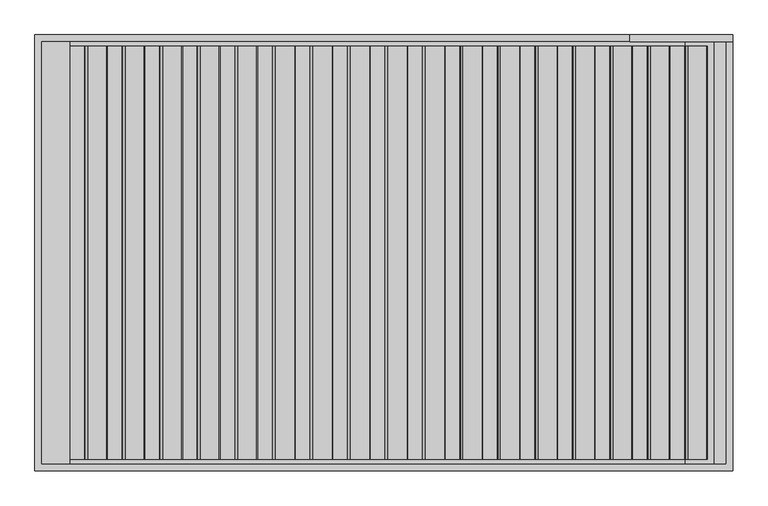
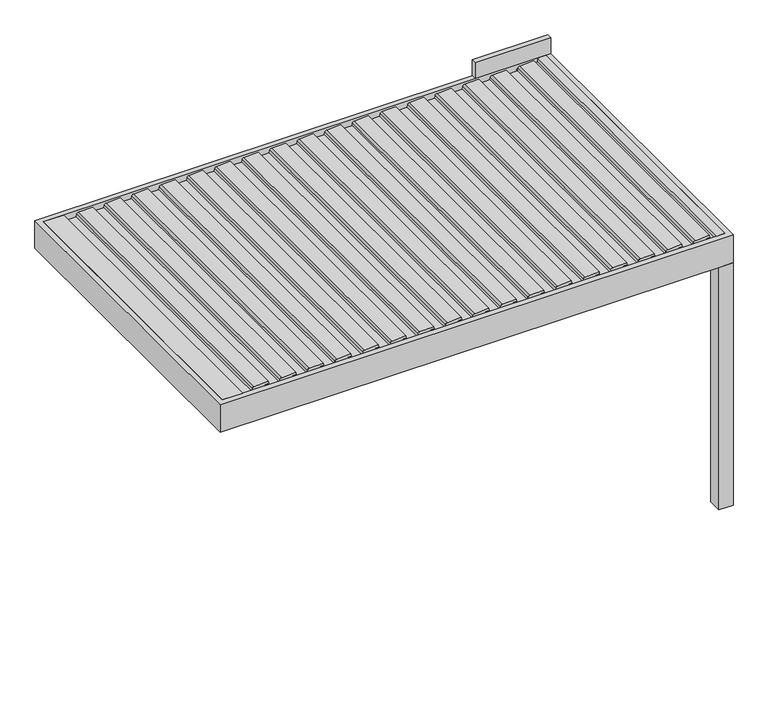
"""IFC4 building model written with IfcOpenShell, lengths in millimetres: proxy geometry, Renson_Algarve_Single : Algarve - Single."""

import ifcopenshell
import ifcopenshell.guid

model = None  # the IFC model being written
_history = None  # IfcOwnerHistory: only IFC2X3 demands one
_inside = {}  # id of a spatial element -> (the spatial element, [elements in it])
_under = {}  # id of a project, library or spatial element -> (it, [spatial elements below it])
_declared = {}  # id of a project -> (the project, [libraries it declares])
_typed = {}  # id of a type object -> (the type object, [elements of that type])
_made_of = {}  # id of a material, layer set ... -> (it, [elements and type objects made of it])


def new_model(schema):
    """Start an empty IFC model of exactly this schema.

    Asked for "IFC4X3", IfcOpenShell would pick the latest addendum, in which some entities
    have other attributes; the version numbers below select the first issue.
    IFC2X3 requires an IfcOwnerHistory on every rooted entity: one is made here for all.
    """
    global model, _history
    if schema == "IFC4X3":
        model = ifcopenshell.file(schema_version=(4, 3, 0, 0))
    else:
        model = ifcopenshell.file(schema=schema)
    _inside.clear()
    _under.clear()
    _declared.clear()
    _typed.clear()
    _made_of.clear()
    _history = None
    if model.schema == "IFC2X3":
        org = make("IfcOrganization", Name="unknown")
        user = make(
            "IfcPersonAndOrganization",
            ThePerson=make("IfcPerson", FamilyName="unknown"),
            TheOrganization=org,
        )
        app = make(
            "IfcApplication",
            ApplicationDeveloper=org,
            Version="unknown",
            ApplicationFullName="unknown",
            ApplicationIdentifier="unknown",
        )
        _history = make(
            "IfcOwnerHistory",
            OwningUser=user,
            OwningApplication=app,
            ChangeAction="ADDED",
            CreationDate=0,
        )
    return model


def make(cls, **values):
    """One entity of the class cls with the attributes given. An attribute that is None is left unset."""
    return model.create_entity(
        cls, **{name: value for name, value in values.items() if value is not None}
    )


def rooted(cls, **values):
    """An entity with a GlobalId (a new one), such as an element, a storey or a relation."""
    return make(cls, GlobalId=ifcopenshell.guid.new(), OwnerHistory=_history, **values)


def si_unit(unit_type, name, prefix=None):
    """IfcSIUnit, for example si_unit("LENGTHUNIT", "METRE", prefix="MILLI")."""
    return make("IfcSIUnit", UnitType=unit_type, Prefix=prefix, Name=name)


def assignment(units):
    """IfcUnitAssignment: the units of a project."""
    return None if units is None else make("IfcUnitAssignment", Units=units)


def point(xyz):
    """IfcCartesianPoint."""
    return None if xyz is None else make("IfcCartesianPoint", Coordinates=xyz)


def direction(xyz):
    """IfcDirection."""
    return None if xyz is None else make("IfcDirection", DirectionRatios=xyz)


def frame(location, z_axis=None, x_axis=None):
    """IfcAxis2Placement3D, a coordinate frame: its origin and axes. An axis left out is left unset."""
    return make(
        "IfcAxis2Placement3D",
        Location=point(location),
        Axis=direction(z_axis),
        RefDirection=direction(x_axis),
    )


def frame_2d(location, x_axis=None):
    """IfcAxis2Placement2D, a coordinate frame in the plane: its origin and x axis."""
    return make(
        "IfcAxis2Placement2D", Location=point(location), RefDirection=direction(x_axis)
    )


def origin():
    """The frame at (0, 0, 0) with its axes left unset."""
    return frame((0.0, 0.0, 0.0))


def origin_with_axes():
    """The frame at (0, 0, 0) with the z axis (0, 0, 1) and the x axis (1, 0, 0) written out."""
    return frame((0.0, 0.0, 0.0), z_axis=(0.0, 0.0, 1.0), x_axis=(1.0, 0.0, 0.0))


def place(relative_to, where):
    """IfcLocalPlacement: puts the frame where relative to a parent placement (None: the world)."""
    return make(
        "IfcLocalPlacement", PlacementRelTo=relative_to, RelativePlacement=where
    )


def context(
    kind, dimensions, precision=None, world=None, true_north=None, identifier=None
):
    """IfcGeometricRepresentationContext, for example the 3D "Model" context."""
    return make(
        "IfcGeometricRepresentationContext",
        ContextIdentifier=identifier,
        ContextType=kind,
        CoordinateSpaceDimension=dimensions,
        Precision=precision,
        WorldCoordinateSystem=world,
        TrueNorth=true_north,
    )


def project(units=None, contexts=None):
    """IfcProject with its units and contexts."""
    return rooted(
        "IfcProject",
        Name="project",
        RepresentationContexts=contexts,
        UnitsInContext=assignment(units),
    )


def spatial(cls, under=None, at=None, **own):
    """A site, building, storey or space (cls), placed at a placement, below another one or the project."""
    s = rooted(cls, ObjectPlacement=at, **own)
    if under is not None:
        _under.setdefault(under.id(), (under, []))[1].append(s)
    return s


def polyline(points):
    """IfcPolyline through the points."""
    return make("IfcPolyline", Points=[point(p) for p in points])


def circle_curve(where, radius):
    """IfcCircle in the frame where."""
    return make("IfcCircle", Position=where, Radius=radius)


def trimmed(basis, trim1, trim2, sense, master):
    """IfcTrimmedCurve: the piece of a basis curve between two trims."""
    return make(
        "IfcTrimmedCurve",
        BasisCurve=basis,
        Trim1=trim1,
        Trim2=trim2,
        SenseAgreement=sense,
        MasterRepresentation=master,
    )


def segment(curve, same_sense, transition):
    """IfcCompositeCurveSegment."""
    return make(
        "IfcCompositeCurveSegment",
        Transition=transition,
        SameSense=same_sense,
        ParentCurve=curve,
    )


def composite_curve(segments, self_intersect=None):
    """IfcCompositeCurve: segments joined end to end."""
    return make("IfcCompositeCurve", Segments=segments, SelfIntersect=self_intersect)


def outline(outer, holes=None, kind="AREA"):
    """IfcArbitraryClosedProfileDef: a profile drawn as a closed curve; with holes, ...WithVoids."""
    if holes is None:
        return make("IfcArbitraryClosedProfileDef", ProfileType=kind, OuterCurve=outer)
    return make(
        "IfcArbitraryProfileDefWithVoids",
        ProfileType=kind,
        OuterCurve=outer,
        InnerCurves=holes,
    )


def extrude(swept, where, along, depth):
    """IfcExtrudedAreaSolid: the profile swept, set in the frame where, extruded along a direction by depth."""
    return make(
        "IfcExtrudedAreaSolid",
        SweptArea=swept,
        Position=where,
        ExtrudedDirection=direction(along),
        Depth=depth,
    )


def faces_of(points, faces, orient=None, outer=None):
    """IfcFace entities. A face is a list of loops; a loop is a list of indices into points, from 0.

    orient and outer hold one flag for each loop. By default every Orientation is true, the
    first loop of a face is its IfcFaceOuterBound and the others are IfcFaceBound.
    """
    made = []
    for i, loops in enumerate(faces):
        bounds = []
        for j, loop in enumerate(loops):
            is_outer = j == 0 if outer is None else outer[i][j]
            bounds.append(
                make(
                    "IfcFaceOuterBound" if is_outer else "IfcFaceBound",
                    Bound=make("IfcPolyLoop", Polygon=[points[k] for k in loop]),
                    Orientation=True if orient is None else orient[i][j],
                )
            )
        made.append(make("IfcFace", Bounds=bounds))
    return made


def faceted_brep(points, faces, orient=None, outer=None, voids=None):
    """IfcFacetedBrep: a solid bounded by flat faces; with voids (closed shells), ...WithVoids."""
    shared = [point(p) for p in points]
    hull = make("IfcClosedShell", CfsFaces=faces_of(shared, faces, orient, outer))
    if voids is None:
        return make("IfcFacetedBrep", Outer=hull)
    return make(
        "IfcFacetedBrepWithVoids",
        Outer=hull,
        Voids=[
            make(cls, CfsFaces=faces_of(shared, fs, o, b)) for cls, fs, o, b in voids
        ],
    )


def shape(context_of_items, identifier, shape_type, items):
    """IfcShapeRepresentation: the items that make up one representation, for example the "Body"."""
    return make(
        "IfcShapeRepresentation",
        ContextOfItems=context_of_items,
        RepresentationIdentifier=identifier,
        RepresentationType=shape_type,
        Items=items,
    )


def source(mapping_origin, context_of_items, identifier, shape_type, items):
    """IfcRepresentationMap: a shape defined once, which mapped items show again and again."""
    return make(
        "IfcRepresentationMap",
        MappingOrigin=mapping_origin,
        MappedRepresentation=shape(context_of_items, identifier, shape_type, items),
    )


def transform(
    local_origin,
    x_axis=None,
    y_axis=None,
    z_axis=None,
    scale=None,
    scale2=None,
    scale3=None,
    uniform=True,
):
    """IfcCartesianTransformationOperator3D, or its non-uniform kind. x_axis, y_axis, z_axis: its Axis1, 2, 3."""
    if uniform:
        return make(
            "IfcCartesianTransformationOperator3D",
            Axis1=direction(x_axis),
            Axis2=direction(y_axis),
            LocalOrigin=point(local_origin),
            Scale=scale,
            Axis3=direction(z_axis),
        )
    return make(
        "IfcCartesianTransformationOperator3DnonUniform",
        Axis1=direction(x_axis),
        Axis2=direction(y_axis),
        LocalOrigin=point(local_origin),
        Scale=scale,
        Axis3=direction(z_axis),
        Scale2=scale2,
        Scale3=scale3,
    )


def mapped(mapping_source, mapping_target):
    """IfcMappedItem: shows the shape of a source again, moved by a transform."""
    return make(
        "IfcMappedItem", MappingSource=mapping_source, MappingTarget=mapping_target
    )


def made_of(thing, what):
    """Note that an element or type object is made of a material, layer set ...; save() writes the relation."""
    if what is not None:
        _made_of.setdefault(what.id(), (what, []))[1].append(thing)
    return thing


def element(
    cls,
    number,
    at=None,
    inside=None,
    cuts=None,
    type_object=None,
    material=None,
    context=None,
    identifier="Body",
    shape_type=None,
    held_by="IfcProductDefinitionShape",
    body=None,
    shapes=None,
    **own,
):
    """One element of the class cls, such as IfcWall. Its Tag is "e" and its number.

    at: its placement. inside: the storey or other place that contains it. cuts: it is an
    opening in that element (IfcRelVoidsElement). A single representation is given by context,
    identifier, shape_type and body (its items); several are given by shapes. held_by: the class
    of the entity that holds the representations. save() writes the other relations.
    """
    e = rooted(cls, Tag="e%d" % number, ObjectPlacement=at, **own)
    if body is not None:
        shapes = [shape(context, identifier, shape_type, body)]
    if shapes is not None:
        e.Representation = make(held_by, Representations=shapes)
    if inside is not None:
        _inside.setdefault(inside.id(), (inside, []))[1].append(e)
    if cuts is not None:
        rooted(
            "IfcRelVoidsElement", RelatingBuildingElement=cuts, RelatedOpeningElement=e
        )
    if type_object is not None:
        _typed.setdefault(type_object.id(), (type_object, []))[1].append(e)
    return made_of(e, material)


def aggregate(whole, parts):
    """IfcRelAggregates: a whole, such as a stair, and the parts it consists of."""
    return rooted("IfcRelAggregates", RelatingObject=whole, RelatedObjects=parts)


def save(model, path):
    """Write the relations noted so far, then the file.

    IfcRelAggregates (storeys below a building ...), IfcRelContainedInSpatialStructure (elements
    in a storey), IfcRelDefinesByType, IfcRelAssociatesMaterial and IfcRelDeclares: one each for
    every whole, place, type object, material and project.
    """
    for whole, parts in _under.values():
        aggregate(whole, parts)
    for where, things in _inside.values():
        rooted(
            "IfcRelContainedInSpatialStructure",
            RelatedElements=things,
            RelatingStructure=where,
        )
    for kind, things in _typed.values():
        rooted("IfcRelDefinesByType", RelatedObjects=things, RelatingType=kind)
    for what, things in _made_of.values():
        rooted("IfcRelAssociatesMaterial", RelatedObjects=things, RelatingMaterial=what)
    for by, libraries in _declared.values():
        rooted("IfcRelDeclares", RelatingContext=by, RelatedDefinitions=libraries)
    model.write(path)


def generic_models_6262f930(model_context):
    return source(origin(), model_context, "Body", "SolidModel", [
        extrude(outline(composite_curve([segment(polyline([(2188.35, 1609.6114167), (2216.01198, 1612.0315264), (2217.3970364, 1640.8667769), (2236.8911096, 1637.4294458), (2231.6075693, 1527.4323309)]), True, "CONTINUOUS"), segment(trimmed(circle_curve(frame_2d((2216.6248435, 1528.1520029)), 15.0), [point((2231.6075693, 1527.4323309))], [point((2219.2295662, 1513.3798866))], False, "CARTESIAN"), True, "CONTINUOUS"), segment(polyline([(2219.2295662, 1513.3798866), (2200.0, 1509.9891952), (2200.0, 1422.2534192), (2217.0788237, 1419.2419618), (2216.3450182, 1403.9649913), (2188.35, 1401.5157446), (2188.35, 1609.6114167)]), True, "CONTINUOUS")], self_intersect=False)), frame((0.0, -1185.0, 0.0), z_axis=(0.0, 1.0, 0.0), x_axis=(0.0, 0.0, 1.0)), (0.0, 0.0, 1.0), 2370.0),
        extrude(outline(composite_curve([segment(polyline([(2188.35, 1394.600612), (2216.01198, 1397.0207216), (2217.3970364, 1425.8559721), (2236.8911096, 1422.418641), (2231.6075693, 1312.4215261)]), True, "CONTINUOUS"), segment(trimmed(circle_curve(frame_2d((2216.6248435, 1313.1411981)), 15.0), [point((2231.6075693, 1312.4215261))], [point((2219.2295662, 1298.3690818))], False, "CARTESIAN"), True, "CONTINUOUS"), segment(polyline([(2219.2295662, 1298.3690818), (2200.0, 1294.9783904), (2200.0, 1207.2426144), (2217.0788237, 1204.231157), (2216.3450182, 1188.9541865), (2188.35, 1186.5049398), (2188.35, 1394.600612)]), True, "CONTINUOUS")], self_intersect=False)), frame((0.0, -1185.0, 0.0), z_axis=(0.0, 1.0, 0.0), x_axis=(0.0, 0.0, 1.0)), (0.0, 0.0, 1.0), 2370.0),
        extrude(outline(composite_curve([segment(polyline([(2188.35, 1179.5898072), (2216.01198, 1182.0099168), (2217.3970364, 1210.8451673), (2236.8911096, 1207.4078362), (2231.6075693, 1097.4107214)]), True, "CONTINUOUS"), segment(trimmed(circle_curve(frame_2d((2216.6248435, 1098.1303933)), 15.0), [point((2231.6075693, 1097.4107214))], [point((2219.2295662, 1083.358277))], False, "CARTESIAN"), True, "CONTINUOUS"), segment(polyline([(2219.2295662, 1083.358277), (2200.0, 1079.9675857), (2200.0, 992.2318096), (2217.0788237, 989.2203522), (2216.3450182, 973.9433817), (2188.35, 971.494135), (2188.35, 1179.5898072)]), True, "CONTINUOUS")], self_intersect=False)), frame((0.0, -1185.0, 0.0), z_axis=(0.0, 1.0, 0.0), x_axis=(0.0, 0.0, 1.0)), (0.0, 0.0, 1.0), 2370.0),
        extrude(outline(composite_curve([segment(polyline([(2188.35, 964.5790024), (2216.01198, 966.999112), (2217.3970364, 995.8343625), (2236.8911096, 992.3970314), (2231.6075693, 882.3999166)]), True, "CONTINUOUS"), segment(trimmed(circle_curve(frame_2d((2216.6248435, 883.1195885)), 15.0), [point((2231.6075693, 882.3999166))], [point((2219.2295662, 868.3474722))], False, "CARTESIAN"), True, "CONTINUOUS"), segment(polyline([(2219.2295662, 868.3474722), (2200.0, 864.9567809), (2200.0, 777.2210048), (2217.0788237, 774.2095474), (2216.3450182, 758.932577), (2188.35, 756.4833302), (2188.35, 964.5790024)]), True, "CONTINUOUS")], self_intersect=False)), frame((0.0, -1185.0, 0.0), z_axis=(0.0, 1.0, 0.0), x_axis=(0.0, 0.0, 1.0)), (0.0, 0.0, 1.0), 2370.0),
        extrude(outline(composite_curve([segment(polyline([(2188.35, 749.5681976), (2216.01198, 751.9883073), (2217.3970364, 780.8235577), (2236.8911096, 777.3862267), (2231.6075693, 667.3891118)]), True, "CONTINUOUS"), segment(trimmed(circle_curve(frame_2d((2216.6248435, 668.1087837)), 15.0), [point((2231.6075693, 667.3891118))], [point((2219.2295662, 653.3366674))], False, "CARTESIAN"), True, "CONTINUOUS"), segment(polyline([(2219.2295662, 653.3366674), (2200.0, 649.9459761), (2200.0, 562.2102001), (2217.0788237, 559.1987426), (2216.3450182, 543.9217722), (2188.35, 541.4725254), (2188.35, 749.5681976)]), True, "CONTINUOUS")], self_intersect=False)), frame((0.0, -1185.0, 0.0), z_axis=(0.0, 1.0, 0.0), x_axis=(0.0, 0.0, 1.0)), (0.0, 0.0, 1.0), 2370.0),
        extrude(outline(composite_curve([segment(polyline([(2188.35, 534.5573928), (2216.01198, 536.9775025), (2217.3970364, 565.8127529), (2236.8911096, 562.3754219), (2231.6075693, 452.378307)]), True, "CONTINUOUS"), segment(trimmed(circle_curve(frame_2d((2216.6248435, 453.0979789)), 15.0), [point((2231.6075693, 452.378307))], [point((2219.2295662, 438.3258627))], False, "CARTESIAN"), True, "CONTINUOUS"), segment(polyline([(2219.2295662, 438.3258627), (2200.0, 434.9351713), (2200.0, 347.1993953), (2217.0788237, 344.1879379), (2216.3450182, 328.9109674), (2188.35, 326.4617207), (2188.35, 534.5573928)]), True, "CONTINUOUS")], self_intersect=False)), frame((0.0, -1185.0, 0.0), z_axis=(0.0, 1.0, 0.0), x_axis=(0.0, 0.0, 1.0)), (0.0, 0.0, 1.0), 2370.0),
        extrude(outline(composite_curve([segment(polyline([(2188.35, 319.546588), (2216.01198, 321.9666977), (2217.3970364, 350.8019482), (2236.8911096, 347.3646171), (2231.6075693, 237.3675022)]), True, "CONTINUOUS"), segment(trimmed(circle_curve(frame_2d((2216.6248435, 238.0871742)), 15.0), [point((2231.6075693, 237.3675022))], [point((2219.2295662, 223.3150579))], False, "CARTESIAN"), True, "CONTINUOUS"), segment(polyline([(2219.2295662, 223.3150579), (2200.0, 219.9243665), (2200.0, 132.1885905), (2217.0788237, 129.1771331), (2216.3450182, 113.9001626), (2188.35, 111.4509159), (2188.35, 319.546588)]), True, "CONTINUOUS")], self_intersect=False)), frame((0.0, -1185.0, 0.0), z_axis=(0.0, 1.0, 0.0), x_axis=(0.0, 0.0, 1.0)), (0.0, 0.0, 1.0), 2370.0),
        extrude(outline(composite_curve([segment(polyline([(2188.35, 104.5357833), (2216.01198, 106.9558929), (2217.3970364, 135.7911434), (2236.8911096, 132.3538123), (2231.6075693, 22.3566975)]), True, "CONTINUOUS"), segment(trimmed(circle_curve(frame_2d((2216.6248435, 23.0763694)), 15.0), [point((2231.6075693, 22.3566975))], [point((2219.2295662, 8.3042531))], False, "CARTESIAN"), True, "CONTINUOUS"), segment(polyline([(2219.2295662, 8.3042531), (2200.0, 4.9135617), (2200.0, -82.8222143), (2217.0788237, -85.8336717), (2216.3450182, -101.1106422), (2188.35, -103.5598889), (2188.35, 104.5357833)]), True, "CONTINUOUS")], self_intersect=False)), frame((0.0, -1185.0, 0.0), z_axis=(0.0, 1.0, 0.0), x_axis=(0.0, 0.0, 1.0)), (0.0, 0.0, 1.0), 2370.0),
        extrude(outline(composite_curve([segment(polyline([(2188.35, -110.4750215), (2216.01198, -108.0549119), (2217.3970364, -79.2196614), (2236.8911096, -82.6569925), (2231.6075693, -192.6541073)]), True, "CONTINUOUS"), segment(trimmed(circle_curve(frame_2d((2216.6248435, -191.9344354)), 15.0), [point((2231.6075693, -192.6541073))], [point((2219.2295662, -206.7065517))], False, "CARTESIAN"), True, "CONTINUOUS"), segment(polyline([(2219.2295662, -206.7065517), (2200.0, -210.097243), (2200.0, -297.8330191), (2217.0788237, -300.8444765), (2216.3450182, -316.121447), (2188.35, -318.5706937), (2188.35, -110.4750215)]), True, "CONTINUOUS")], self_intersect=False)), frame((0.0, -1185.0, 0.0), z_axis=(0.0, 1.0, 0.0), x_axis=(0.0, 0.0, 1.0)), (0.0, 0.0, 1.0), 2370.0),
        extrude(outline(composite_curve([segment(polyline([(2188.35, -325.4858263), (2216.01198, -323.0657166), (2217.3970364, -294.2304662), (2236.8911096, -297.6677973), (2231.6075693, -407.6649121)]), True, "CONTINUOUS"), segment(trimmed(circle_curve(frame_2d((2216.6248435, -406.9452402)), 15.0), [point((2231.6075693, -407.6649121))], [point((2219.2295662, -421.7173565))], False, "CARTESIAN"), True, "CONTINUOUS"), segment(polyline([(2219.2295662, -421.7173565), (2200.0, -425.1080478), (2200.0, -512.8438238), (2217.0788237, -515.8552813), (2216.3450182, -531.1322517), (2188.35, -533.5814985), (2188.35, -325.4858263)]), True, "CONTINUOUS")], self_intersect=False)), frame((0.0, -1185.0, 0.0), z_axis=(0.0, 1.0, 0.0), x_axis=(0.0, 0.0, 1.0)), (0.0, 0.0, 1.0), 2370.0),
        extrude(outline(composite_curve([segment(polyline([(2188.35, -540.4966311), (2216.01198, -538.0765214), (2217.3970364, -509.241271), (2236.8911096, -512.678602), (2231.6075693, -622.6757169)]), True, "CONTINUOUS"), segment(trimmed(circle_curve(frame_2d((2216.6248435, -621.956045)), 15.0), [point((2231.6075693, -622.6757169))], [point((2219.2295662, -636.7281613))], False, "CARTESIAN"), True, "CONTINUOUS"), segment(polyline([(2219.2295662, -636.7281613), (2200.0, -640.1188526), (2200.0, -727.8546286), (2217.0788237, -730.866086), (2216.3450182, -746.1430565), (2188.35, -748.5923032), (2188.35, -540.4966311)]), True, "CONTINUOUS")], self_intersect=False)), frame((0.0, -1185.0, 0.0), z_axis=(0.0, 1.0, 0.0), x_axis=(0.0, 0.0, 1.0)), (0.0, 0.0, 1.0), 2370.0),
        extrude(outline(composite_curve([segment(polyline([(2188.35, -755.5074359), (2216.01198, -753.0873262), (2217.3970364, -724.2520757), (2236.8911096, -727.6894068), (2231.6075693, -837.6865217)]), True, "CONTINUOUS"), segment(trimmed(circle_curve(frame_2d((2216.6248435, -836.9668497)), 15.0), [point((2231.6075693, -837.6865217))], [point((2219.2295662, -851.738966))], False, "CARTESIAN"), True, "CONTINUOUS"), segment(polyline([(2219.2295662, -851.738966), (2200.0, -855.1296574), (2200.0, -942.8654334), (2217.0788237, -945.8768908), (2216.3450182, -961.1538613), (2188.35, -963.603108), (2188.35, -755.5074359)]), True, "CONTINUOUS")], self_intersect=False)), frame((0.0, -1185.0, 0.0), z_axis=(0.0, 1.0, 0.0), x_axis=(0.0, 0.0, 1.0)), (0.0, 0.0, 1.0), 2370.0),
        extrude(outline(composite_curve([segment(polyline([(2188.35, -970.5182406), (2216.01198, -968.098131), (2217.3970364, -939.2628805), (2236.8911096, -942.7002116), (2231.6075693, -1052.6973265)]), True, "CONTINUOUS"), segment(trimmed(circle_curve(frame_2d((2216.6248435, -1051.9776545)), 15.0), [point((2231.6075693, -1052.6973265))], [point((2219.2295662, -1066.7497708))], False, "CARTESIAN"), True, "CONTINUOUS"), segment(polyline([(2219.2295662, -1066.7497708), (2200.0, -1070.1404622), (2200.0, -1157.8762382), (2217.0788237, -1160.8876956), (2216.3450182, -1176.1646661), (2188.35, -1178.6139128), (2188.35, -970.5182406)]), True, "CONTINUOUS")], self_intersect=False)), frame((0.0, -1185.0, 0.0), z_axis=(0.0, 1.0, 0.0), x_axis=(0.0, 0.0, 1.0)), (0.0, 0.0, 1.0), 2370.0),
        extrude(outline(composite_curve([segment(polyline([(2188.35, -1185.5290454), (2216.01198, -1183.1089358), (2217.3970364, -1154.2736853), (2236.8911096, -1157.7110164), (2231.6075693, -1267.7081312)]), True, "CONTINUOUS"), segment(trimmed(circle_curve(frame_2d((2216.6248435, -1266.9884593)), 15.0), [point((2231.6075693, -1267.7081312))], [point((2219.2295662, -1281.7605756))], False, "CARTESIAN"), True, "CONTINUOUS"), segment(polyline([(2219.2295662, -1281.7605756), (2200.0, -1285.1512669), (2200.0, -1372.887043), (2217.0788237, -1375.8985004), (2216.3450182, -1391.1754709), (2188.35, -1393.6247176), (2188.35, -1185.5290454)]), True, "CONTINUOUS")], self_intersect=False)), frame((0.0, -1185.0, 0.0), z_axis=(0.0, 1.0, 0.0), x_axis=(0.0, 0.0, 1.0)), (0.0, 0.0, 1.0), 2370.0),
        extrude(outline(composite_curve([segment(polyline([(2188.35, -1400.5398502), (2216.01198, -1398.1197405), (2217.3970364, -1369.2844901), (2236.8911096, -1372.7218212), (2231.6075693, -1482.718936)]), True, "CONTINUOUS"), segment(trimmed(circle_curve(frame_2d((2216.6248435, -1481.9992641)), 15.0), [point((2231.6075693, -1482.718936))], [point((2219.2295662, -1496.7713804))], False, "CARTESIAN"), True, "CONTINUOUS"), segment(polyline([(2219.2295662, -1496.7713804), (2200.0, -1500.1620717), (2200.0, -1587.8978478), (2217.0788237, -1590.9093052), (2216.3450182, -1606.1862756), (2188.35, -1608.6355224), (2188.35, -1400.5398502)]), True, "CONTINUOUS")], self_intersect=False)), frame((0.0, -1185.0, 0.0), z_axis=(0.0, 1.0, 0.0), x_axis=(0.0, 0.0, 1.0)), (0.0, 0.0, 1.0), 2370.0),
        extrude(outline(composite_curve([segment(polyline([(2188.35, 1824.6222215), (2216.01198, 1827.0423312), (2217.3970364, 1855.8775816), (2236.8911096, 1852.4402506), (2231.6075693, 1742.4431357)]), True, "CONTINUOUS"), segment(trimmed(circle_curve(frame_2d((2216.6248435, 1743.1628076)), 15.0), [point((2231.6075693, 1742.4431357))], [point((2219.2295662, 1728.3906913))], False, "CARTESIAN"), True, "CONTINUOUS"), segment(polyline([(2219.2295662, 1728.3906913), (2200.0, 1725.0), (2200.0, 1637.264224), (2217.0788237, 1634.2527666), (2216.3450182, 1618.9757961), (2188.35, 1616.5265494), (2188.35, 1824.6222215)]), True, "CONTINUOUS")], self_intersect=False)), frame((0.0, -1185.0, 0.0), z_axis=(0.0, 1.0, 0.0), x_axis=(0.0, 0.0, 1.0)), (0.0, 0.0, 1.0), 2370.0),
        extrude(outline(composite_curve([segment(polyline([(2188.35, -1615.550655), (2216.01198, -1613.1305453), (2217.3970364, -1584.2952949), (2236.8911096, -1587.7326259), (2231.6075693, -1697.7297408)]), True, "CONTINUOUS"), segment(trimmed(circle_curve(frame_2d((2216.6248435, -1697.0100689)), 15.0), [point((2231.6075693, -1697.7297408))], [point((2219.2295662, -1711.7821852))], False, "CARTESIAN"), True, "CONTINUOUS"), segment(polyline([(2219.2295662, -1711.7821852), (2200.0, -1715.1728765), (2200.0, -1802.9086525), (2217.0788237, -1805.9201099), (2216.3450182, -1821.1970804), (2188.35, -1823.6463271), (2188.35, -1615.550655)]), True, "CONTINUOUS")], self_intersect=False)), frame((0.0, -1185.0, 0.0), z_axis=(0.0, 1.0, 0.0), x_axis=(0.0, 0.0, 1.0)), (0.0, 0.0, 1.0), 2370.0),
        extrude(outline(polyline([(2168.0, 1960.0), (2230.0, 1960.0), (2230.0, 1896.0), (2198.0, 1896.0), (2198.0, 1730.0), (2168.0, 1730.0), (2168.0, 1960.0)])), frame((0.0, -1210.0, 0.0), z_axis=(0.0, 1.0, 0.0), x_axis=(0.0, 0.0, 1.0)), (0.0, 0.0, 1.0), 2420.0),
        extrude(outline(polyline([(2230.0, -1800.0), (2230.0, -1960.0), (2186.0, -1960.0), (2186.0, -1827.3193336), (2219.1716603, -1824.4171894), (2220.344502, -1800.0), (2230.0, -1800.0)])), frame((0.0, -1210.0, 0.0), z_axis=(0.0, 1.0, 0.0), x_axis=(0.0, 0.0, 1.0)), (0.0, 0.0, 1.0), 2420.0),
        faceted_brep([(1890.0, 1140.0, 2057.0), (1890.0, 1140.0, 2000.0), (1890.0, -1140.0, 2000.0), (1890.0, -1140.0, 2057.0), (2000.0, 1250.0, 2000.0), (2000.0, 1250.0, 2230.0), (2000.0, -1250.0, 2230.0), (2000.0, -1250.0, 2000.0), (1960.0, 1210.0, 2230.0), (1960.0, 1210.0, 2057.0), (1960.0, -1210.0, 2057.0), (1960.0, -1210.0, 2230.0), (-1890.0, -1140.0, 2000.0), (-1890.0, -1140.0, 2057.0), (-2000.0, -1250.0, 2230.0), (-2000.0, -1250.0, 2000.0), (-1960.0, -1210.0, 2057.0), (-1960.0, -1210.0, 2230.0), (-1890.0, 1140.0, 2000.0), (-1890.0, 1140.0, 2057.0), (-2000.0, 1250.0, 2230.0), (-2000.0, 1250.0, 2000.0), (-1960.0, 1210.0, 2057.0), (-1960.0, 1210.0, 2230.0)], [[[0, 1, 2, 3]], [[4, 5, 6, 7]], [[8, 9, 10, 11]], [[3, 2, 12, 13]], [[7, 6, 14, 15]], [[11, 10, 16, 17]], [[13, 12, 18, 19]], [[15, 14, 20, 21]], [[17, 16, 22, 23]], [[9, 22, 16, 10], [3, 13, 19, 0]], [[19, 18, 1, 0]], [[7, 15, 21, 4], [1, 18, 12, 2]], [[21, 20, 5, 4]], [[5, 20, 14, 6], [11, 17, 23, 8]], [[23, 22, 9, 8]]]),
        extrude(outline(polyline([(2000.0, -1140.0), (2000.0, -1250.0), (1890.0, -1250.0), (1890.0, -1140.0), (2000.0, -1140.0)])), origin_with_axes(), (0.0, 0.0, 1.0), 2000.0),
        extrude(outline(polyline([(2000.0, 1250.0), (2000.0, 1210.0), (1410.0, 1210.0), (1410.0, 1250.0), (2000.0, 1250.0)])), frame((0.0, 0.0, 2230.0), z_axis=(0.0, 0.0, 1.0), x_axis=(1.0, 0.0, 0.0)), (0.0, 0.0, 1.0), 130.0),
    ])


if __name__ == "__main__":
    model = new_model("IFC4")
    model_context = context("Model", 3, world=origin())
    ifc_project = project(units=[si_unit("LENGTHUNIT", "METRE", prefix="MILLI")], contexts=[model_context])
    site = spatial("IfcSite", under=ifc_project)
    building = spatial("IfcBuilding", under=site)
    placement = place(None, origin())
    generic_models_shape = generic_models_6262f930(model_context)
    element("IfcBuildingElementProxy", 1, Name="Renson_Algarve_Single : Algarve - Single", ObjectType="Renson_Algarve_Single : Algarve - Single", at=placement, inside=building, context=model_context, shape_type="MappedRepresentation", body=[
        mapped(generic_models_shape, transform((0.0, 0.0, 0.0), x_axis=(1.0, 0.0, 0.0), y_axis=(0.0, 1.0, 0.0), z_axis=(0.0, 0.0, 1.0))),
    ])
    save(model, "model.ifc")
